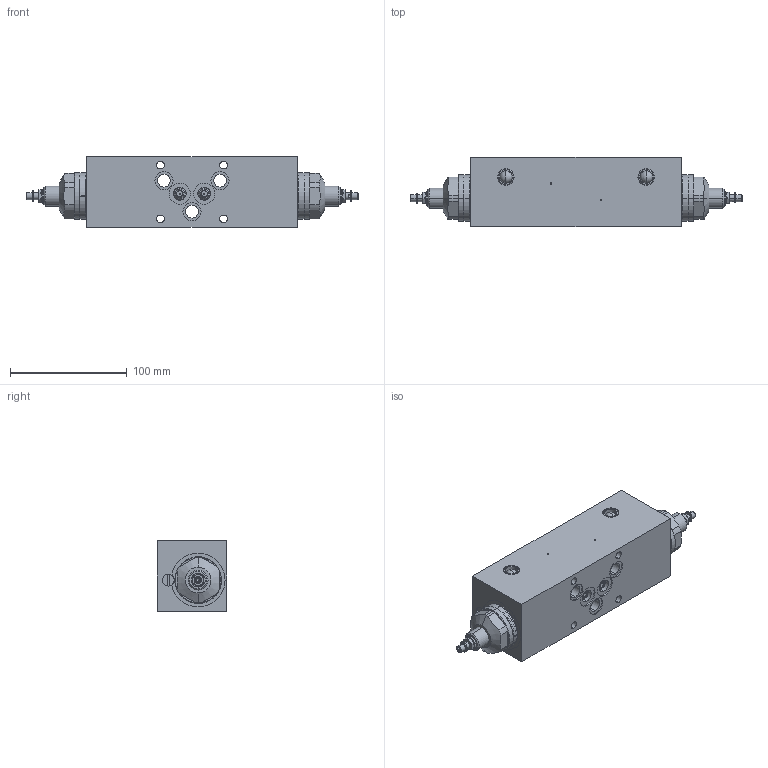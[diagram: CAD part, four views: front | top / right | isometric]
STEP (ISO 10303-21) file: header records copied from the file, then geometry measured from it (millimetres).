
FILE_DESCRIPTION (( 'STEP AP214' ), '1' );
FILE_NAME ('QZSSA10-AB.STEP', '2017-04-12T14:01:13', ( '' ), ( '' ), 'SwSTEP 2.0', 'SolidWorks 2016', '' );
FILE_SCHEMA (( 'AUTOMOTIVE_DESIGN' ));
Length unit declared in the file: millimetre
Products named in the file (1): QZSSA10-AB
Bounding box: 284 x 59.5 x 60 mm (x, y, z)
Volume: 664149.2 mm3; surface area: 78745.4 mm2
Topology: 4 solids, 8 shells, 573 faces, 1426 edges, 898 vertices
Faces by surface type: cylinder 248, plane 185, cone 88, torus 44, sphere 8
Entity records: 24423 total; most frequent: CARTESIAN_POINT 4974, DIRECTION 2908, ORIENTED_EDGE 2828, EDGE_CURVE 1414, AXIS2_PLACEMENT_3D 1224, VERTEX_POINT 898, CIRCLE 650, EDGE_LOOP 644
